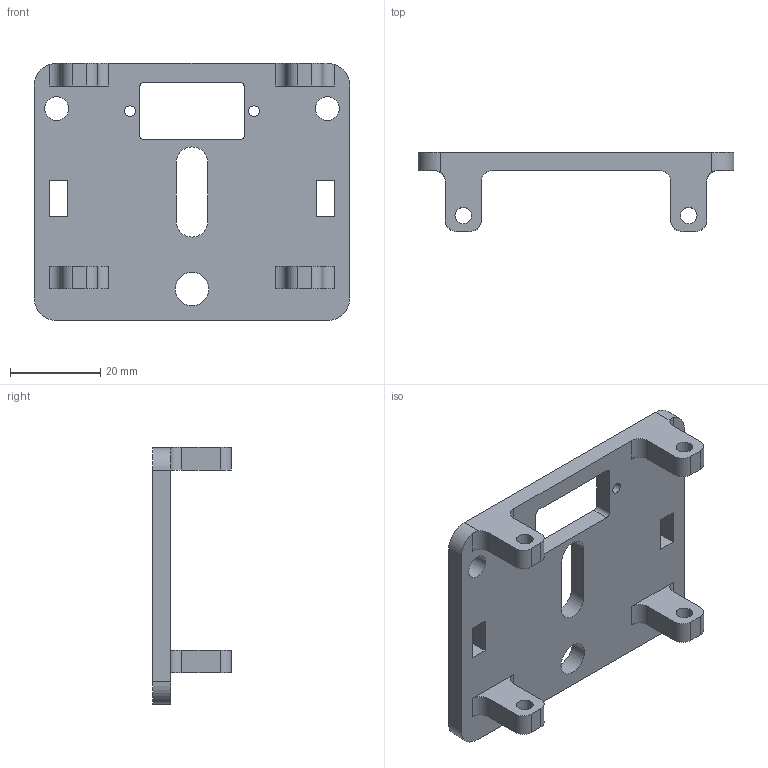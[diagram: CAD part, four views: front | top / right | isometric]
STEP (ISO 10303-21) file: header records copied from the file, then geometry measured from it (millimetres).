
FILE_DESCRIPTION(/* description */ (''),/* implementation_level */ '2;1');
FILE_NAME(/* name */ 'Pen Holder Base Plate.step',/* time_stamp */ '2025-04-22T12:35:30+05:30',/* author */ (''),/* organization */ (''),/* preprocessor_version */ 'ST-DEVELOPER v20.1',/* originating_system */ 'Autodesk Translation Framework v14.4.0.0',/* authorisation */ '');
FILE_SCHEMA (('AUTOMOTIVE_DESIGN { 1 0 10303 214 3 1 1 }'));
Length unit declared in the file: millimetre
Products named in the file (1): Pen Holder Base Plate
Bounding box: 70 x 17.5 x 57 mm (x, y, z)
Volume: 15481.1 mm3; surface area: 10165.4 mm2
Topology: 1 solids, 1 shells, 73 faces, 207 edges, 138 vertices
Faces by surface type: plane 38, cylinder 35
Full cylindrical faces by diameter (mm): 2.4 x2, 3.7 x4, 5.3 x2, 7.4 x1
Entity records: 2489 total; most frequent: CARTESIAN_POINT 429, DIRECTION 423, ORIENTED_EDGE 414, EDGE_CURVE 207, AXIS2_PLACEMENT_3D 144, VERTEX_POINT 138, LINE 135, VECTOR 135
